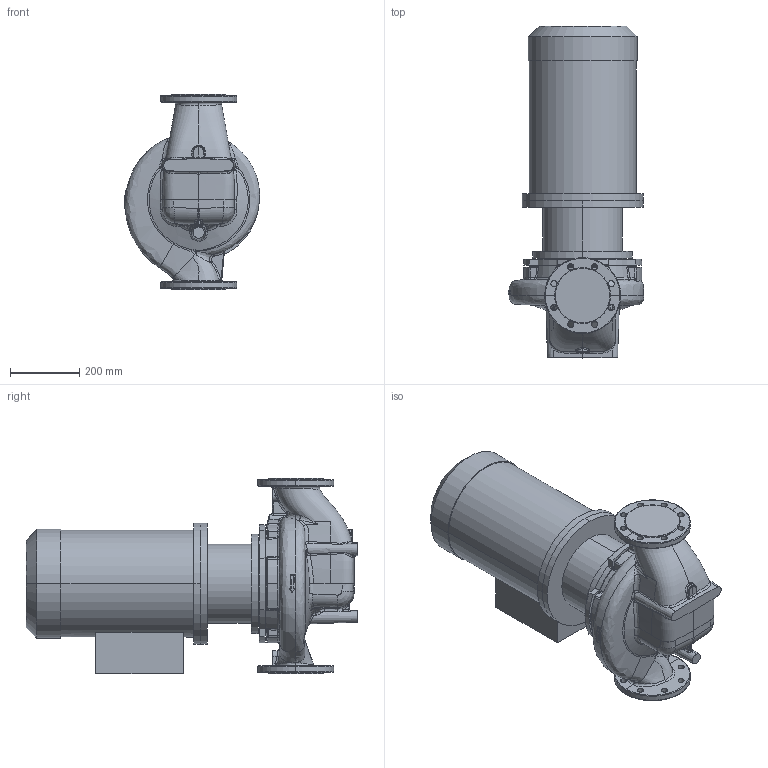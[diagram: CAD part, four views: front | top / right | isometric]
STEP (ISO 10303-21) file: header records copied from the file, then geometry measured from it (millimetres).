
FILE_DESCRIPTION (( 'STEP AP203' ), '1' );
FILE_NAME ('KRL 100-250-4-11.STEP', '2026-04-03T08:43:32', ( '' ), ( '' ), 'SwSTEP 2.0', 'SolidWorks 2016', '' );
FILE_SCHEMA (( 'CONFIG_CONTROL_DESIGN' ));
Length unit declared in the file: millimetre
Products named in the file (1): KRL 100-250-4-11
Bounding box: 391.4 x 960.8 x 565 mm (x, y, z)
Volume: 75807229.2 mm3; surface area: 2082304.9 mm2
Topology: 8 solids, 8 shells, 657 faces, 1563 edges, 928 vertices
Faces by surface type: bspline 313, cylinder 149, plane 110, cone 37, torus 26, sphere 22
Entity records: 60627 total; most frequent: CARTESIAN_POINT 48055, ORIENTED_EDGE 3094, DIRECTION 1907, EDGE_CURVE 1547, VERTEX_POINT 926, AXIS2_PLACEMENT_3D 818, B_SPLINE_CURVE_WITH_KNOTS 732, EDGE_LOOP 709
